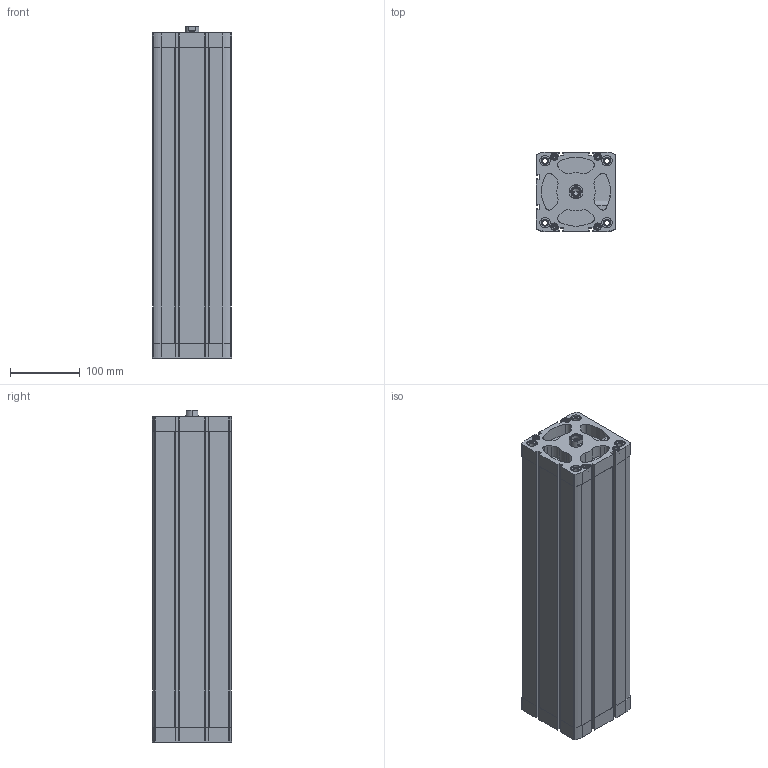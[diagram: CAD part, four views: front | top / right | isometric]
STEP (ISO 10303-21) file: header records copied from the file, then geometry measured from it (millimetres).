
FILE_DESCRIPTION (( 'STEP AP203' ), '1' );
FILE_NAME ('CCN100-400F.STEP', '2020-06-05T18:16:23', ( '' ), ( '' ), 'SwSTEP 2.0', 'SolidWorks 2019', '' );
FILE_SCHEMA (( 'CONFIG_CONTROL_DESIGN' ));
Length unit declared in the file: millimetre
Products named in the file (1): CCN100-400F
Bounding box: 113.5 x 113.5 x 476.8 mm (x, y, z)
Volume: 2578279.3 mm3; surface area: 540463.3 mm2
Topology: 2 solids, 2 shells, 628 faces, 1631 edges, 1043 vertices
Faces by surface type: plane 284, cylinder 270, cone 74
Entity records: 20342 total; most frequent: CARTESIAN_POINT 4507, DIRECTION 3451, ORIENTED_EDGE 3226, EDGE_CURVE 1613, AXIS2_PLACEMENT_3D 1281, VERTEX_POINT 1043, LINE 889, VECTOR 889
